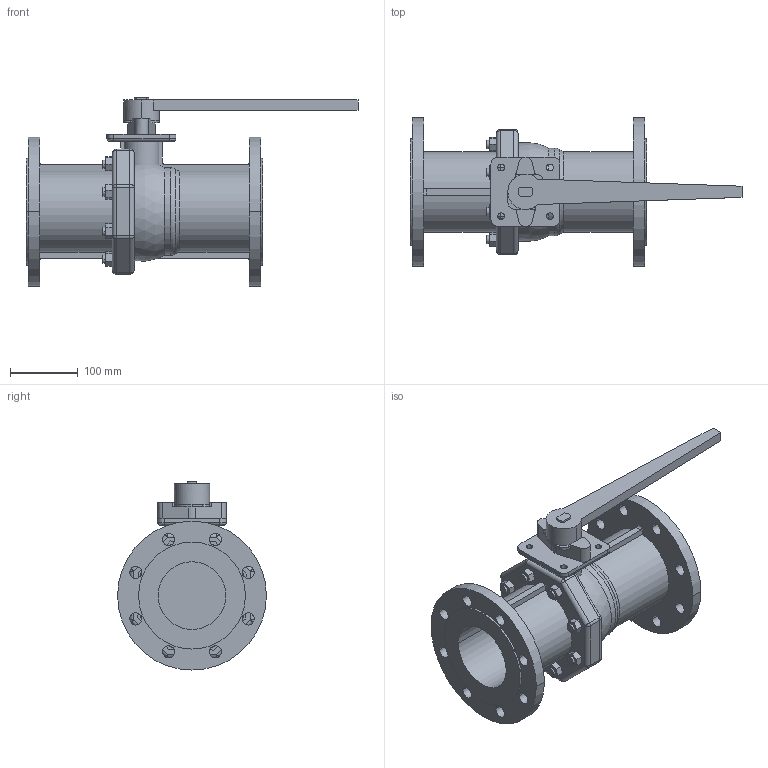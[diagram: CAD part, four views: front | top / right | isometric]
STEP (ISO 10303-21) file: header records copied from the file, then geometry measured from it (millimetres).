
FILE_DESCRIPTION( (''), '2;1');
FILE_NAME ('PC2091.16192.BLV-2SF EN PN16 100A_7286.stp','2026-05-28T09:13:58',(''),(''),'spGate 21.9.4 (****-****-****-****)','','');
FILE_SCHEMA (('AUTOMOTIVE_DESIGN'));
Length unit declared in the file: millimetre
Products named in the file (2): Assembly; BLV-2SFEN 100A
Assembly tree (1 placements, depth 2):
  Assembly
    BLV-2SFEN 100A
Bounding box: 490.7 x 220 x 278 mm (x, y, z)
Volume: 3607176 mm3; surface area: 492569.7 mm2
Topology: 1 solids, 1 shells, 288 faces, 745 edges, 464 vertices
Faces by surface type: plane 133, cylinder 130, sphere 17, bspline 8
Entity records: 14884 total; most frequent: CARTESIAN_POINT 1885, DIRECTION 1503, ORIENTED_EDGE 1458, COLOUR_RGB 1018, PRESENTATION_STYLE_ASSIGNMENT 1018, STYLED_ITEM 1018, EDGE_CURVE 729, DRAUGHTING_PRE_DEFINED_CURVE_FONT 729
